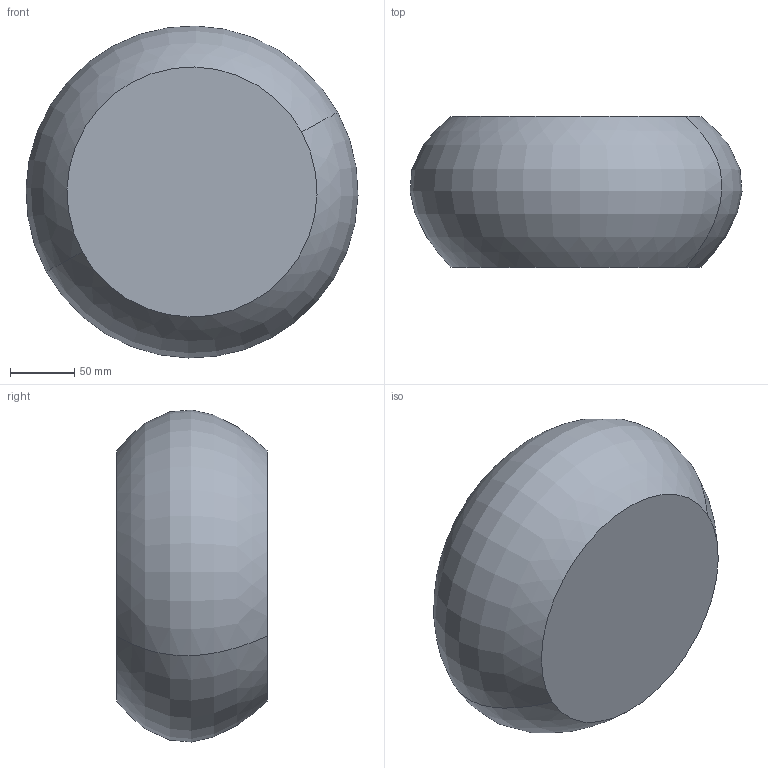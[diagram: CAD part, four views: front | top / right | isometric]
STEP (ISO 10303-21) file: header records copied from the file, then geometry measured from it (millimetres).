
FILE_DESCRIPTION(('CATIA V5 STEP Exchange'),'2;1');
FILE_NAME('C:\_Andres\UNIVERSIDAD\IQS\ASIGNATURAS\DAO\EXF\EXF-15161c\1original\Ferrer_Costa_Ej10-decora_v7.stp','2016-03-04T22:24:12+00:00',('none'),('none'),'CATIA Version 5 Release 20 SP 1 (IN-10)','CATIA V5 STEP AP203','none');
FILE_SCHEMA(('CONFIG_CONTROL_DESIGN'));
Length unit declared in the file: millimetre
Products named in the file (1): Ferrer_Costa_Ej10-decora_v7
Bounding box: 257.53 x 117 x 257.53 mm (x, y, z)
Volume: 5176414.2 mm3; surface area: 160178.6 mm2
Topology: 1 solids, 1 shells, 4 faces, 6 edges, 4 vertices
Faces by surface type: revolution 2, plane 2
Entity records: 166 total; most frequent: CARTESIAN_POINT 50, DIRECTION 12, ORIENTED_EDGE 12, AXIS2_PLACEMENT_3D 8, EDGE_CURVE 6, ADVANCED_FACE 4, B_SPLINE_CURVE_WITH_KNOTS 4, CC_DESIGN_PERSON_AND_ORGANIZATION_ASSIGNMENT 4
